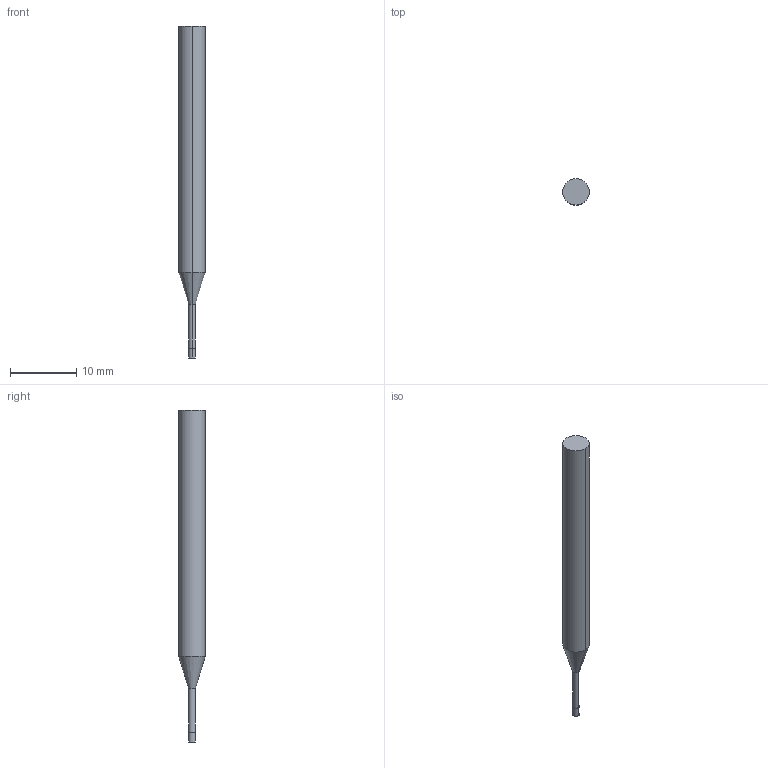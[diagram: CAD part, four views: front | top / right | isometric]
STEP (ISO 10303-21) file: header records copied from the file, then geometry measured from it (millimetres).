
FILE_DESCRIPTION((' '),'2;1');
FILE_NAME( '3MVSM0100N8AH.stp', '2026-01-21T19:27:08', (' '), ('--- Datakit www.datakit.com---'), ' Datakit CrossCadWare V2025.4 Sep 19 2025', 'Mastercam 2027', ' ');
FILE_SCHEMA(('AUTOMOTIVE_DESIGN { 1 0 10303 214 1 1 1 1 }'));
Length unit declared in the file: inch
Products named in the file (1): 3MVSM0100N8AH
Bounding box: 4 x 4 x 50 mm (x, y, z)
Volume: 499.5 mm3; surface area: 545 mm2
Topology: 1 solids, 1 shells, 10 faces, 18 edges, 10 vertices
Faces by surface type: cylinder 6, plane 2, cone 2
Entity records: 323 total; most frequent: DIRECTION 58, CARTESIAN_POINT 43, ORIENTED_EDGE 36, AXIS2_PLACEMENT_3D 25, EDGE_CURVE 18, VERTEX_POINT 10, CIRCLE 10, EDGE_LOOP 10
